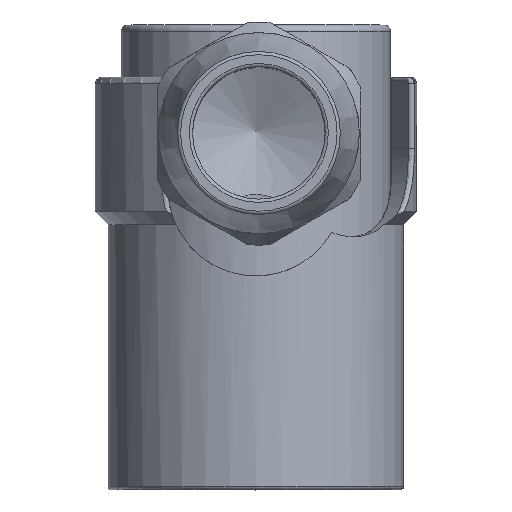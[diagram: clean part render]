
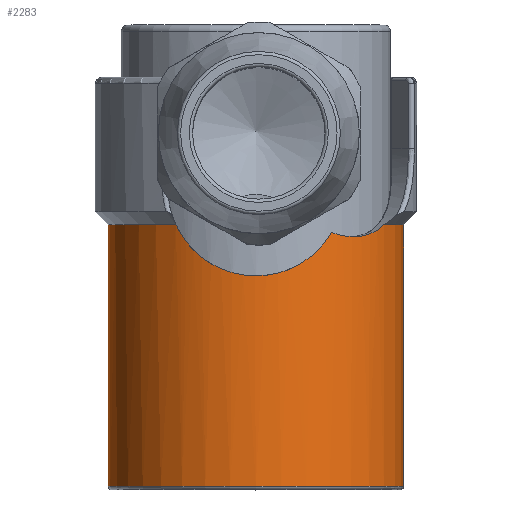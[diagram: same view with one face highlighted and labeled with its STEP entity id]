
A CAD part, top view. The second image highlights one B-rep face of the part: STEP entity #2283.
In plain terms, the highlighted cylindrical face has radius 11.506 mm (diameter 23.012 mm), a full revolution.
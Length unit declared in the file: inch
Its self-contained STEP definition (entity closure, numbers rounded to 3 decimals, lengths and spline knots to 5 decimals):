
#67=B_SPLINE_CURVE_WITH_KNOTS('',3,(#4263,#4264,#4265,#4266,#4267,#4268,
#4269,#4270,#4271,#4272,#4273,#4274,#4275,#4276),.UNSPECIFIED.,.F.,.F.,
(4,2,2,2,2,2,4),(2.48883,2.6654,2.93094,3.19648,
3.46202,3.72756,3.97189),.UNSPECIFIED.);
#70=B_SPLINE_CURVE_WITH_KNOTS('',3,(#4309,#4310,#4311,#4312,#4313,#4314,
#4315,#4316),.UNSPECIFIED.,.F.,.F.,(4,2,2,4),(0.75839,0.84147,
1.13042,1.33905),.UNSPECIFIED.);
#267=FACE_OUTER_BOUND('',#405,.T.);
#405=EDGE_LOOP('',(#1752,#1753,#1754,#1755,#1756,#1757,#1758,#1759));
#526=LINE('',#4321,#617);
#617=VECTOR('',#3032,0.453);
#751=CIRCLE('',#2521,0.453);
#752=CIRCLE('',#2522,0.453);
#756=CIRCLE('',#2533,0.453);
#757=CIRCLE('',#2534,0.453);
#961=VERTEX_POINT('',#4257);
#962=VERTEX_POINT('',#4262);
#966=VERTEX_POINT('',#4293);
#967=VERTEX_POINT('',#4298);
#968=VERTEX_POINT('',#4320);
#969=VERTEX_POINT('',#4322);
#1242=EDGE_CURVE('',#962,#961,#67,.T.);
#1252=EDGE_CURVE('',#966,#967,#751,.T.);
#1253=EDGE_CURVE('',#967,#961,#752,.T.);
#1257=EDGE_CURVE('',#966,#962,#70,.T.);
#1259=EDGE_CURVE('',#967,#968,#526,.T.);
#1260=EDGE_CURVE('',#969,#968,#756,.T.);
#1261=EDGE_CURVE('',#968,#969,#757,.T.);
#1752=ORIENTED_EDGE('',*,*,#1257,.T.);
#1753=ORIENTED_EDGE('',*,*,#1242,.T.);
#1754=ORIENTED_EDGE('',*,*,#1253,.F.);
#1755=ORIENTED_EDGE('',*,*,#1259,.T.);
#1756=ORIENTED_EDGE('',*,*,#1260,.F.);
#1757=ORIENTED_EDGE('',*,*,#1261,.F.);
#1758=ORIENTED_EDGE('',*,*,#1259,.F.);
#1759=ORIENTED_EDGE('',*,*,#1252,.F.);
#2208=CYLINDRICAL_SURFACE('',#2532,0.453);
#2283=ADVANCED_FACE('',(#267),#2208,.T.);
#2521=AXIS2_PLACEMENT_3D('',#4299,#3007,#3008);
#2522=AXIS2_PLACEMENT_3D('',#4300,#3009,#3010);
#2532=AXIS2_PLACEMENT_3D('',#4319,#3030,#3031);
#2533=AXIS2_PLACEMENT_3D('',#4323,#3033,#3034);
#2534=AXIS2_PLACEMENT_3D('',#4324,#3035,#3036);
#3007=DIRECTION('center_axis',(0.,1.,0.));
#3008=DIRECTION('ref_axis',(1.,0.,0.));
#3009=DIRECTION('center_axis',(0.,1.,0.));
#3010=DIRECTION('ref_axis',(1.,0.,0.));
#3030=DIRECTION('center_axis',(0.,1.,0.));
#3031=DIRECTION('ref_axis',(0.,0.,1.));
#3032=DIRECTION('',(0.,-1.,0.));
#3033=DIRECTION('center_axis',(0.,-1.,0.));
#3034=DIRECTION('ref_axis',(0.,0.,-1.));
#3035=DIRECTION('center_axis',(0.,-1.,0.));
#3036=DIRECTION('ref_axis',(0.,0.,-1.));
#4257=CARTESIAN_POINT('',(-0.24522,0.812,0.38089));
#4262=CARTESIAN_POINT('',(0.23267,0.78802,0.38868));
#4263=CARTESIAN_POINT('Ctrl Pts',(0.23267,0.78802,0.38868));
#4264=CARTESIAN_POINT('Ctrl Pts',(0.22081,0.76788,0.39578));
#4265=CARTESIAN_POINT('Ctrl Pts',(0.20648,0.74965,0.40357));
#4266=CARTESIAN_POINT('Ctrl Pts',(0.16751,0.71067,0.42168));
#4267=CARTESIAN_POINT('Ctrl Pts',(0.13774,0.69001,0.4329));
#4268=CARTESIAN_POINT('Ctrl Pts',(0.07143,0.66215,
0.44863));
#4269=CARTESIAN_POINT('Ctrl Pts',(0.03485,0.655,
0.453));
#4270=CARTESIAN_POINT('Ctrl Pts',(-0.03485,0.655,
0.453));
#4271=CARTESIAN_POINT('Ctrl Pts',(-0.07143,0.66215,
0.44863));
#4272=CARTESIAN_POINT('Ctrl Pts',(-0.13774,0.69001,
0.4329));
#4273=CARTESIAN_POINT('Ctrl Pts',(-0.16751,0.71067,
0.42168));
#4274=CARTESIAN_POINT('Ctrl Pts',(-0.21246,0.75562,
0.40079));
#4275=CARTESIAN_POINT('Ctrl Pts',(-0.23153,0.78231,
0.3897));
#4276=CARTESIAN_POINT('Ctrl Pts',(-0.24522,0.812,0.38089));
#4293=CARTESIAN_POINT('',(0.39226,0.812,0.22658));
#4298=CARTESIAN_POINT('',(0.,0.812,-0.453));
#4299=CARTESIAN_POINT('Origin',(0.,0.812,0.));
#4300=CARTESIAN_POINT('Origin',(0.,0.812,0.));
#4309=CARTESIAN_POINT('Ctrl Pts',(0.39226,0.812,0.22658));
#4310=CARTESIAN_POINT('Ctrl Pts',(0.38711,0.80678,0.2355));
#4311=CARTESIAN_POINT('Ctrl Pts',(0.38153,0.80201,0.24446));
#4312=CARTESIAN_POINT('Ctrl Pts',(0.35463,0.78304,0.28432));
#4313=CARTESIAN_POINT('Ctrl Pts',(0.32835,0.775,0.31438));
#4314=CARTESIAN_POINT('Ctrl Pts',(0.27941,0.775,0.35762));
#4315=CARTESIAN_POINT('Ctrl Pts',(0.25619,0.77919,0.3746));
#4316=CARTESIAN_POINT('Ctrl Pts',(0.23267,0.78802,0.38868));
#4319=CARTESIAN_POINT('Origin',(0.,0.406,0.));
#4320=CARTESIAN_POINT('',(0.,0.01,-0.453));
#4321=CARTESIAN_POINT('',(0.,0.406,-0.453));
#4322=CARTESIAN_POINT('',(0.,0.01,0.453));
#4323=CARTESIAN_POINT('Origin',(0.,0.01,0.));
#4324=CARTESIAN_POINT('Origin',(0.,0.01,0.));
